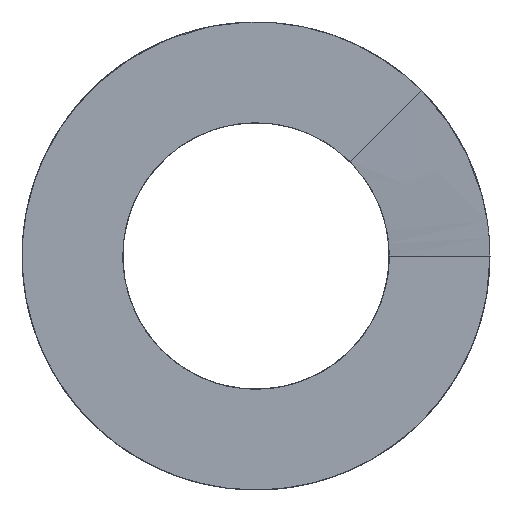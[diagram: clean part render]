
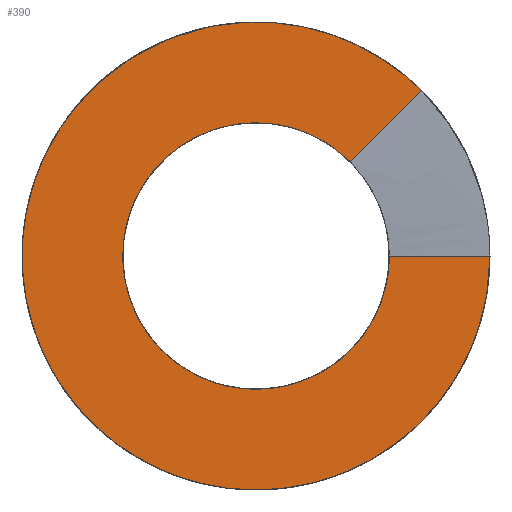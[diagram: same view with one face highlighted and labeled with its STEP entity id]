
A CAD part, front view. The second image highlights one B-rep face of the part: STEP entity #390.
In plain terms, the highlighted planar face has unit normal (0, -1, 0).
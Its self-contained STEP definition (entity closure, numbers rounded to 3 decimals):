
#36=LINE('',#2687,#44);
#44=VECTOR('',#461,10.);
#74=B_SPLINE_CURVE_WITH_KNOTS('',3,(#2020,#2021,#2022,#2023,#2024,#2025,
#2026,#2027,#2028,#2029,#2030,#2031,#2032,#2033,#2034,#2035,#2036,#2037,
#2038,#2039,#2040,#2041,#2042,#2043,#2044,#2045,#2046,#2047,#2048,#2049,
#2050,#2051,#2052,#2053,#2054,#2055,#2056,#2057,#2058,#2059,#2060,#2061),
 .UNSPECIFIED.,.F.,.F.,(4,2,2,2,2,2,2,2,2,2,2,2,2,2,2,2,2,2,2,2,4),(-7.801,
-7.36,-6.919,-6.643,-6.145,
-5.699,-5.305,-4.974,-4.723,
-4.612,-4.56,-4.504,-4.424,
-3.871,-3.318,-2.765,-2.212,
-1.659,-1.106,-0.553,0.),
 .UNSPECIFIED.);
#83=B_SPLINE_CURVE_WITH_KNOTS('',3,(#2577,#2578,#2579,#2580,#2581,#2582,
#2583,#2584,#2585,#2586,#2587,#2588,#2589,#2590,#2591,#2592,#2593,#2594,
#2595,#2596,#2597,#2598,#2599,#2600,#2601,#2602,#2603,#2604,#2605,#2606,
#2607,#2608,#2609,#2610,#2611,#2612,#2613,#2614,#2615,#2616,#2617,#2618),
 .UNSPECIFIED.,.F.,.F.,(4,2,2,2,2,2,2,2,2,2,2,2,2,2,2,2,2,2,2,2,4),(-13.7,
-12.893,-12.087,-11.116,-10.145,
-9.174,-8.203,-7.232,-6.262,
-5.845,-5.749,-5.663,-5.555,
-5.419,-5.033,-4.285,-3.636,-2.924,
-1.942,-0.971,0.),.UNSPECIFIED.);
#89=B_SPLINE_CURVE_WITH_KNOTS('',3,(#2681,#2682,#2683,#2684,#2685,#2686),
 .UNSPECIFIED.,.F.,.F.,(4,2,4),(-1.07,-0.535,0.),.UNSPECIFIED.);
#114=FACE_OUTER_BOUND('',#140,.T.);
#140=EDGE_LOOP('',(#335,#336,#337,#338));
#171=VERTEX_POINT('',#1702);
#178=VERTEX_POINT('',#2014);
#181=VERTEX_POINT('',#2167);
#186=VERTEX_POINT('',#2576);
#224=EDGE_CURVE('',#178,#171,#74,.T.);
#235=EDGE_CURVE('',#181,#186,#83,.T.);
#242=EDGE_CURVE('',#186,#178,#89,.T.);
#243=EDGE_CURVE('',#171,#181,#36,.T.);
#335=ORIENTED_EDGE('',*,*,#242,.F.);
#336=ORIENTED_EDGE('',*,*,#235,.F.);
#337=ORIENTED_EDGE('',*,*,#243,.F.);
#338=ORIENTED_EDGE('',*,*,#224,.F.);
#372=PLANE('',#429);
#390=ADVANCED_FACE('',(#114),#372,.F.);
#429=AXIS2_PLACEMENT_3D('',#2680,#459,#460);
#459=DIRECTION('center_axis',(0.,1.,0.));
#460=DIRECTION('ref_axis',(0.,0.,1.));
#461=DIRECTION('',(1.,0.,0.));
#1702=CARTESIAN_POINT('',(14.155,0.,0.));
#2014=CARTESIAN_POINT('',(10.009,0.,10.009));
#2020=CARTESIAN_POINT('Ctrl Pts',(10.009,0.,
10.009));
#2021=CARTESIAN_POINT('Ctrl Pts',(8.969,0.,
11.049));
#2022=CARTESIAN_POINT('Ctrl Pts',(7.773,0.,
11.921));
#2023=CARTESIAN_POINT('Ctrl Pts',(5.156,0.,
13.264));
#2024=CARTESIAN_POINT('Ctrl Pts',(3.751,0.,
13.728));
#2025=CARTESIAN_POINT('Ctrl Pts',(1.393,0.,
14.116));
#2026=CARTESIAN_POINT('Ctrl Pts',(0.474,0.,
14.177));
#2027=CARTESIAN_POINT('Ctrl Pts',(-2.105,0.,
14.096));
#2028=CARTESIAN_POINT('Ctrl Pts',(-3.743,0.,
13.752));
#2029=CARTESIAN_POINT('Ctrl Pts',(-6.663,0.,
12.577));
#2030=CARTESIAN_POINT('Ctrl Pts',(-7.946,0.,
11.808));
#2031=CARTESIAN_POINT('Ctrl Pts',(-10.092,0.,
10.012));
#2032=CARTESIAN_POINT('Ctrl Pts',(-10.977,0.,
9.033));
#2033=CARTESIAN_POINT('Ctrl Pts',(-12.335,0.,
7.032));
#2034=CARTESIAN_POINT('Ctrl Pts',(-12.846,0.,
6.047));
#2035=CARTESIAN_POINT('Ctrl Pts',(-13.532,0.,
4.234));
#2036=CARTESIAN_POINT('Ctrl Pts',(-13.758,0.,
3.43));
#2037=CARTESIAN_POINT('Ctrl Pts',(-13.981,0.,
2.246));
#2038=CARTESIAN_POINT('Ctrl Pts',(-14.035,0.,
1.878));
#2039=CARTESIAN_POINT('Ctrl Pts',(-14.093,0.,
1.335));
#2040=CARTESIAN_POINT('Ctrl Pts',(-14.108,0.,
1.162));
#2041=CARTESIAN_POINT('Ctrl Pts',(-14.133,0.,
0.804));
#2042=CARTESIAN_POINT('Ctrl Pts',(-14.143,0.,
0.62));
#2043=CARTESIAN_POINT('Ctrl Pts',(-14.157,0.,
0.167));
#2044=CARTESIAN_POINT('Ctrl Pts',(-14.157,0.,
-0.102));
#2045=CARTESIAN_POINT('Ctrl Pts',(-14.102,0.,
-2.214));
#2046=CARTESIAN_POINT('Ctrl Pts',(-13.694,0.,
-4.03));
#2047=CARTESIAN_POINT('Ctrl Pts',(-12.205,0.,
-7.402));
#2048=CARTESIAN_POINT('Ctrl Pts',(-11.139,0.,
-8.927));
#2049=CARTESIAN_POINT('Ctrl Pts',(-8.481,0.,
-11.482));
#2050=CARTESIAN_POINT('Ctrl Pts',(-6.916,0.,
-12.487));
#2051=CARTESIAN_POINT('Ctrl Pts',(-3.487,0.,
-13.842));
#2052=CARTESIAN_POINT('Ctrl Pts',(-1.657,0.,
-14.178));
#2053=CARTESIAN_POINT('Ctrl Pts',(2.029,0.,
-14.13));
#2054=CARTESIAN_POINT('Ctrl Pts',(3.849,0.,
-13.746));
#2055=CARTESIAN_POINT('Ctrl Pts',(7.241,0.,
-12.301));
#2056=CARTESIAN_POINT('Ctrl Pts',(8.78,0.,
-11.255));
#2057=CARTESIAN_POINT('Ctrl Pts',(11.369,0.,
-8.631));
#2058=CARTESIAN_POINT('Ctrl Pts',(12.395,0.,
-7.079));
#2059=CARTESIAN_POINT('Ctrl Pts',(13.795,0.,
-3.669));
#2060=CARTESIAN_POINT('Ctrl Pts',(14.155,0.,-1.843));
#2061=CARTESIAN_POINT('Ctrl Pts',(14.155,0.,0.));
#2167=CARTESIAN_POINT('',(24.855,0.,0.));
#2576=CARTESIAN_POINT('',(17.575,0.,17.575));
#2577=CARTESIAN_POINT('Ctrl Pts',(24.855,0.,0.));
#2578=CARTESIAN_POINT('Ctrl Pts',(24.855,0.,-2.688));
#2579=CARTESIAN_POINT('Ctrl Pts',(24.419,0.,-5.357));
#2580=CARTESIAN_POINT('Ctrl Pts',(22.709,0.,-10.454));
#2581=CARTESIAN_POINT('Ctrl Pts',(21.447,0.,-12.846));
#2582=CARTESIAN_POINT('Ctrl Pts',(17.874,0.,-17.572));
#2583=CARTESIAN_POINT('Ctrl Pts',(15.437,0.,-19.747));
#2584=CARTESIAN_POINT('Ctrl Pts',(9.865,0.,-23.042));
#2585=CARTESIAN_POINT('Ctrl Pts',(6.784,0.,-24.129));
#2586=CARTESIAN_POINT('Ctrl Pts',(0.378,0.,-25.062));
#2587=CARTESIAN_POINT('Ctrl Pts',(-2.885,0.,-24.898));
#2588=CARTESIAN_POINT('Ctrl Pts',(-9.165,0.,-23.329));
#2589=CARTESIAN_POINT('Ctrl Pts',(-12.121,0.,-21.939));
#2590=CARTESIAN_POINT('Ctrl Pts',(-17.336,0.,-18.103));
#2591=CARTESIAN_POINT('Ctrl Pts',(-19.543,0.,-15.694));
#2592=CARTESIAN_POINT('Ctrl Pts',(-22.911,0.,-10.166));
#2593=CARTESIAN_POINT('Ctrl Pts',(-24.038,0.,-7.1));
#2594=CARTESIAN_POINT('Ctrl Pts',(-24.765,0.,-2.533));
#2595=CARTESIAN_POINT('Ctrl Pts',(-24.867,0.,
-1.146));
#2596=CARTESIAN_POINT('Ctrl Pts',(-24.851,0.,
0.564));
#2597=CARTESIAN_POINT('Ctrl Pts',(-24.841,0.,
0.885));
#2598=CARTESIAN_POINT('Ctrl Pts',(-24.812,0.,
1.492));
#2599=CARTESIAN_POINT('Ctrl Pts',(-24.793,0.,
1.777));
#2600=CARTESIAN_POINT('Ctrl Pts',(-24.74,0.,
2.419));
#2601=CARTESIAN_POINT('Ctrl Pts',(-24.702,0.,
2.776));
#2602=CARTESIAN_POINT('Ctrl Pts',(-24.6,0.,
3.581));
#2603=CARTESIAN_POINT('Ctrl Pts',(-24.53,0.,
4.029));
#2604=CARTESIAN_POINT('Ctrl Pts',(-24.217,0.,
5.742));
#2605=CARTESIAN_POINT('Ctrl Pts',(-23.887,0.,
6.989));
#2606=CARTESIAN_POINT('Ctrl Pts',(-22.638,0.,
10.559));
#2607=CARTESIAN_POINT('Ctrl Pts',(-21.466,0.,
12.775));
#2608=CARTESIAN_POINT('Ctrl Pts',(-18.697,0.,
16.519));
#2609=CARTESIAN_POINT('Ctrl Pts',(-17.188,0.,
18.083));
#2610=CARTESIAN_POINT('Ctrl Pts',(-13.642,0.,20.911));
#2611=CARTESIAN_POINT('Ctrl Pts',(-11.585,0.,
22.117));
#2612=CARTESIAN_POINT('Ctrl Pts',(-6.357,0.,
24.25));
#2613=CARTESIAN_POINT('Ctrl Pts',(-3.111,0.,
24.876));
#2614=CARTESIAN_POINT('Ctrl Pts',(3.4,0.,
24.833));
#2615=CARTESIAN_POINT('Ctrl Pts',(6.601,0.,
24.18));
#2616=CARTESIAN_POINT('Ctrl Pts',(12.573,0.,
21.683));
#2617=CARTESIAN_POINT('Ctrl Pts',(15.287,0.,
19.864));
#2618=CARTESIAN_POINT('Ctrl Pts',(17.575,0.,
17.575));
#2680=CARTESIAN_POINT('Origin',(0.,0.,0.));
#2681=CARTESIAN_POINT('Ctrl Pts',(17.575,0.,
17.575));
#2682=CARTESIAN_POINT('Ctrl Pts',(16.314,0.,
16.314));
#2683=CARTESIAN_POINT('Ctrl Pts',(15.053,0.,15.053));
#2684=CARTESIAN_POINT('Ctrl Pts',(12.531,0.,12.531));
#2685=CARTESIAN_POINT('Ctrl Pts',(11.27,0.,
11.27));
#2686=CARTESIAN_POINT('Ctrl Pts',(10.009,0.,
10.009));
#2687=CARTESIAN_POINT('',(9.753,0.,0.));
